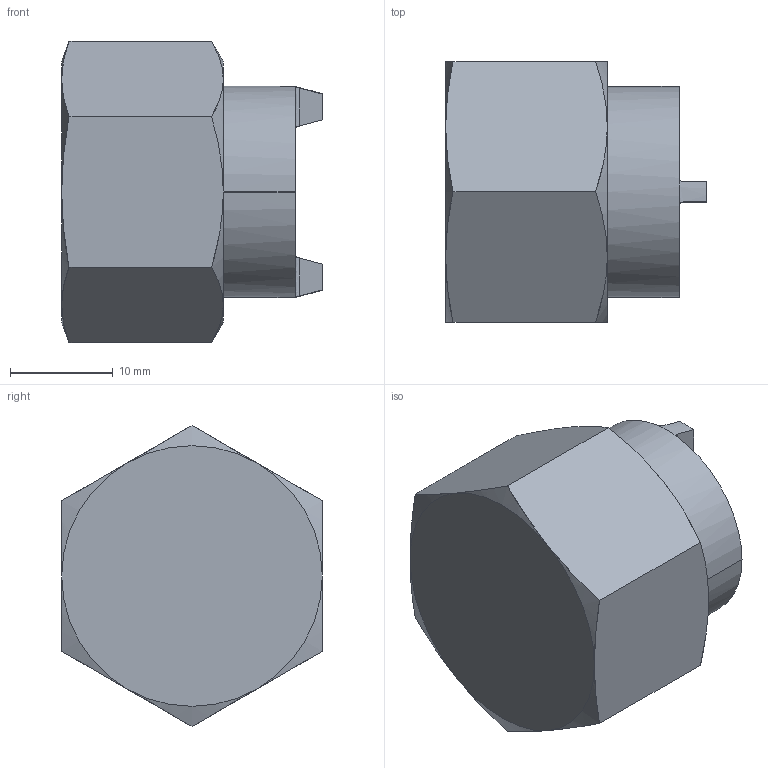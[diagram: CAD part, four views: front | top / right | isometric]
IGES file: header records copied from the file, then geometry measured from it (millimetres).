
Start section:  PTC IGES file: vw-66.igs
Global section: file name: vw-66.igs; native system: Pro/ENGINEER by Parametric Technology Corporation; preprocessor: 2002350; author: chant; organization: Unknown; date: 070702.164424; units: inch
Bounding box: 25.4 x 25.4 x 29.33 mm (x, y, z)
Surface area: 3507.9 mm2 (no closed solid volume)
Topology: 0 solids, 0 shells, 43 faces, 294 edges, 386 vertices
Faces by surface type: revolution 27, bspline 16
